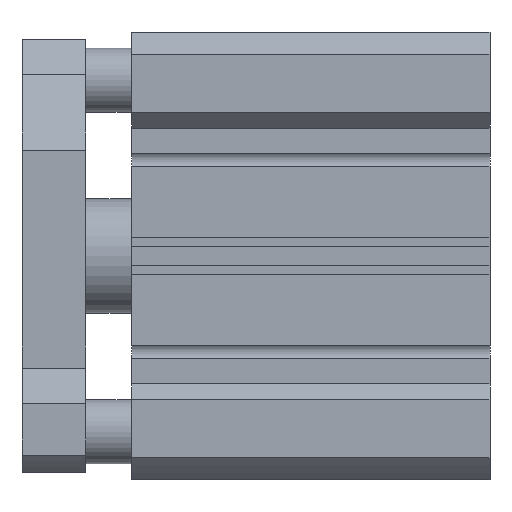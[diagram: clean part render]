
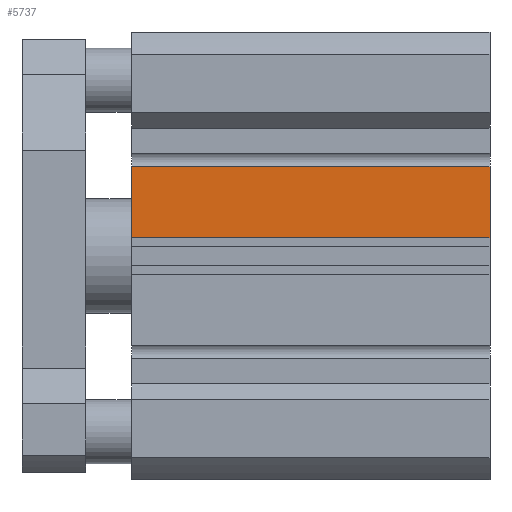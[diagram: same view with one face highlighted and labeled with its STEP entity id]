
A CAD part, front view. The second image highlights one B-rep face of the part: STEP entity #5737.
In plain terms, the highlighted planar face has unit normal (0, -1, 0).
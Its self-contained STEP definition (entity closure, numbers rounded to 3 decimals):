
#278 = VECTOR ( 'NONE', #3500, 1000. ) ;
#418 = PLANE ( 'NONE',  #4894 ) ;
#467 = VECTOR ( 'NONE', #1830, 1000. ) ;
#751 = VERTEX_POINT ( 'NONE', #5519 ) ;
#823 = CARTESIAN_POINT ( 'NONE',  ( 78.5, -45.5, 4. ) ) ;
#1251 = LINE ( 'NONE', #3209, #467 ) ;
#1301 = LINE ( 'NONE', #5054, #5195 ) ;
#1304 = VERTEX_POINT ( 'NONE', #1841 ) ;
#1615 = EDGE_CURVE ( 'NONE', #1304, #5884, #5450, .T. ) ;
#1629 = DIRECTION ( 'NONE',  ( -1., 0., 0. ) ) ;
#1830 = DIRECTION ( 'NONE',  ( 0., 0., -1. ) ) ;
#1841 = CARTESIAN_POINT ( 'NONE',  ( 78.5, -45.5, 19.5 ) ) ;
#2611 = CARTESIAN_POINT ( 'NONE',  ( 78.5, -45.5, 19.5 ) ) ;
#2709 = DIRECTION ( 'NONE',  ( -1., 0., 0. ) ) ;
#3133 = VECTOR ( 'NONE', #1629, 1000. ) ;
#3209 = CARTESIAN_POINT ( 'NONE',  ( 0., -45.5, 19.5 ) ) ;
#3387 = EDGE_CURVE ( 'NONE', #5884, #4651, #1301, .T. ) ;
#3500 = DIRECTION ( 'NONE',  ( 0., 0., -1. ) ) ;
#3650 = EDGE_CURVE ( 'NONE', #1304, #751, #5852, .T. ) ;
#3760 = ORIENTED_EDGE ( 'NONE', *, *, #3650, .T. ) ;
#3796 = ORIENTED_EDGE ( 'NONE', *, *, #1615, .F. ) ;
#3968 = CARTESIAN_POINT ( 'NONE',  ( 78.5, -45.5, 19.5 ) ) ;
#4277 = CARTESIAN_POINT ( 'NONE',  ( 0., -45.5, 4. ) ) ;
#4572 = DIRECTION ( 'NONE',  ( 1., 0., 0. ) ) ;
#4602 = EDGE_LOOP ( 'NONE', ( #5035, #5885, #3796, #3760 ) ) ;
#4606 = FACE_OUTER_BOUND ( 'NONE', #4602, .T. ) ;
#4651 = VERTEX_POINT ( 'NONE', #4277 ) ;
#4894 = AXIS2_PLACEMENT_3D ( 'NONE', #5967, #5066, #4572 ) ;
#5035 = ORIENTED_EDGE ( 'NONE', *, *, #5841, .T. ) ;
#5054 = CARTESIAN_POINT ( 'NONE',  ( 78.5, -45.5, 4. ) ) ;
#5066 = DIRECTION ( 'NONE',  ( 0., 1., 0. ) ) ;
#5195 = VECTOR ( 'NONE', #2709, 1000. ) ;
#5450 = LINE ( 'NONE', #2611, #278 ) ;
#5519 = CARTESIAN_POINT ( 'NONE',  ( 0., -45.5, 19.5 ) ) ;
#5737 = ADVANCED_FACE ( 'NONE', ( #4606 ), #418, .F. ) ;
#5841 = EDGE_CURVE ( 'NONE', #751, #4651, #1251, .T. ) ;
#5852 = LINE ( 'NONE', #3968, #3133 ) ;
#5884 = VERTEX_POINT ( 'NONE', #823 ) ;
#5885 = ORIENTED_EDGE ( 'NONE', *, *, #3387, .F. ) ;
#5967 = CARTESIAN_POINT ( 'NONE',  ( 78.5, -45.5, 19.5 ) ) ;
